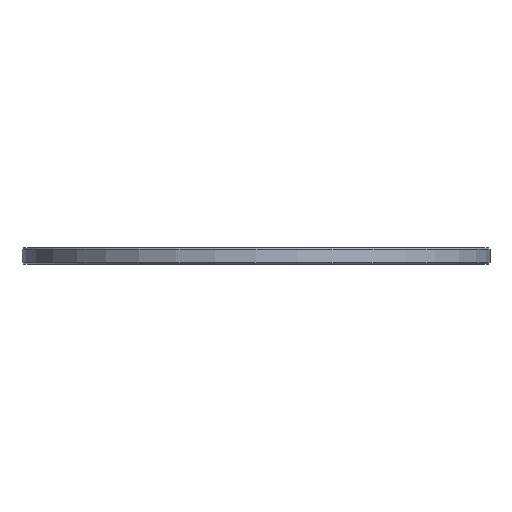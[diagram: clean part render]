
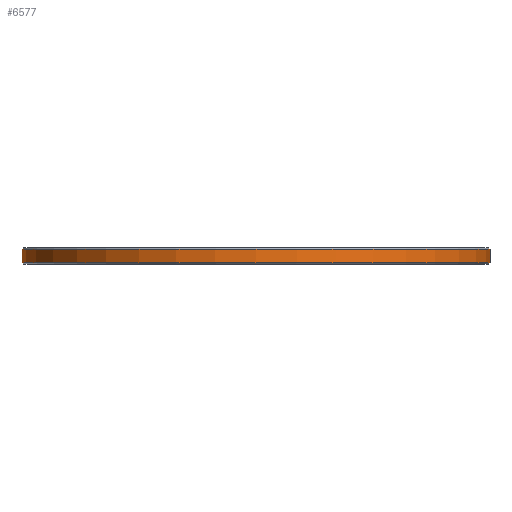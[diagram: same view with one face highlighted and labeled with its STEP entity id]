
A CAD part, front view. The second image highlights one B-rep face of the part: STEP entity #6577.
In plain terms, the highlighted cylindrical face has radius 45.312 mm (diameter 90.625 mm), a full revolution.
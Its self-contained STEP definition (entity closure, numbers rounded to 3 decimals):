
#80=CYLINDRICAL_SURFACE('',#7005,45.313);
#672=FACE_OUTER_BOUND('',#1063,.T.);
#1063=EDGE_LOOP('',(#6063,#6064,#6065,#6066));
#1172=CIRCLE('',#7004,45.313);
#1173=CIRCLE('',#7006,45.313);
#1986=LINE('',#10508,#2813);
#2813=VECTOR('',#8611,45.313);
#3418=VERTEX_POINT('',#10502);
#3419=VERTEX_POINT('',#10506);
#4303=EDGE_CURVE('',#3418,#3418,#1172,.T.);
#4305=EDGE_CURVE('',#3419,#3419,#1173,.T.);
#4306=EDGE_CURVE('',#3419,#3418,#1986,.T.);
#6063=ORIENTED_EDGE('',*,*,#4305,.F.);
#6064=ORIENTED_EDGE('',*,*,#4306,.T.);
#6065=ORIENTED_EDGE('',*,*,#4303,.F.);
#6066=ORIENTED_EDGE('',*,*,#4306,.F.);
#6577=ADVANCED_FACE('',(#672),#80,.T.);
#7004=AXIS2_PLACEMENT_3D('',#10503,#8604,#8605);
#7005=AXIS2_PLACEMENT_3D('',#10505,#8607,#8608);
#7006=AXIS2_PLACEMENT_3D('',#10507,#8609,#8610);
#8604=DIRECTION('center_axis',(0.,0.,-1.));
#8605=DIRECTION('ref_axis',(1.,0.,0.));
#8607=DIRECTION('center_axis',(0.,0.,1.));
#8608=DIRECTION('ref_axis',(1.,0.,0.));
#8609=DIRECTION('center_axis',(0.,0.,1.));
#8610=DIRECTION('ref_axis',(1.,0.,0.));
#8611=DIRECTION('',(0.,0.,-1.));
#10502=CARTESIAN_POINT('',(-45.313,0.,0.3));
#10503=CARTESIAN_POINT('Origin',(0.,0.,0.3));
#10505=CARTESIAN_POINT('Origin',(0.,0.,0.));
#10506=CARTESIAN_POINT('',(-45.313,0.,2.825));
#10507=CARTESIAN_POINT('Origin',(0.,0.,2.825));
#10508=CARTESIAN_POINT('',(-45.313,0.,0.));
